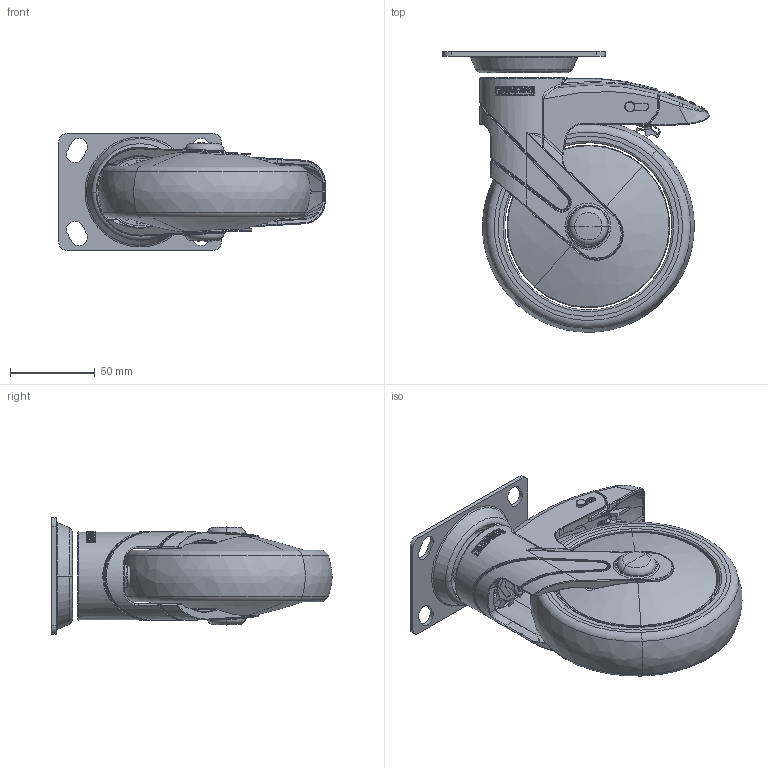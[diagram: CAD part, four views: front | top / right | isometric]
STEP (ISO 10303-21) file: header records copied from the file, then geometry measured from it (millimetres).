
FILE_DESCRIPTION((''),'2;1');
FILE_NAME('PRT0007','2026-03-31T15:32:50',('Administrator'),(''),'CREO PARAMETRIC BY PTC INC, 2022124','CREO PARAMETRIC BY PTC INC, 2022124','');
FILE_SCHEMA(('AUTOMOTIVE_DESIGN { 1 0 10303 214 1 1 1 1 }'));
Products named in the file (1): PRT0007
Bounding box: 157.39 x 165.47 x 69 mm (x, y, z)
Surface area: 73496.4 mm2 (no closed solid volume)
Topology: 0 solids, 48 shells, 479 faces, 2078 edges, 1588 vertices
Faces by surface type: bspline 187, cylinder 126, plane 91, torus 54, cone 17, sphere 4
Entity records: 42886 total; most frequent: CARTESIAN_POINT 25021, ORIENTED_EDGE 2845, DIRECTION 2439, EDGE_CURVE 2062, VERTEX_POINT 1588, AXIS2_PLACEMENT_3D 966, B_SPLINE_CURVE_WITH_KNOTS 894, CIRCLE 664
